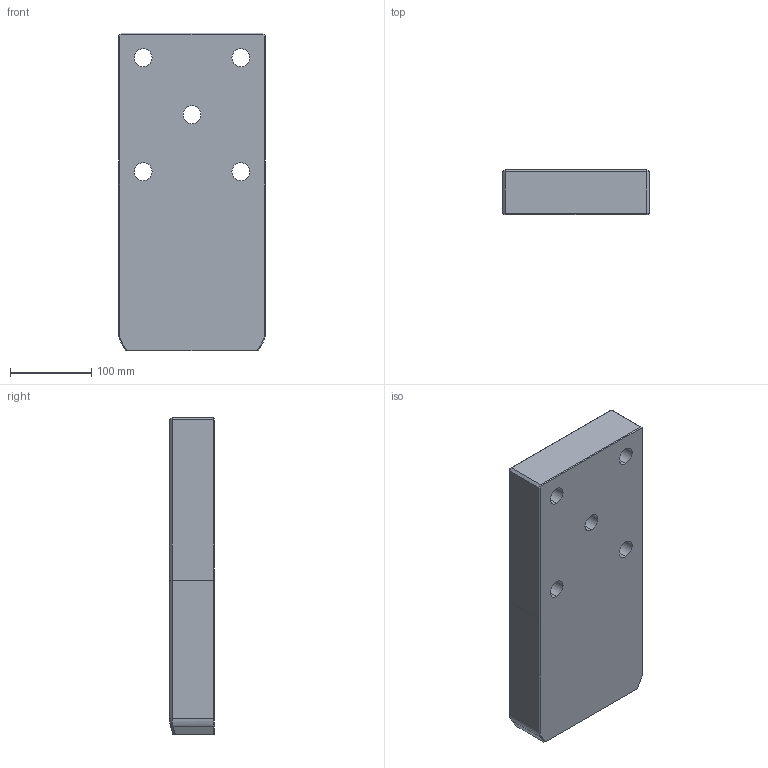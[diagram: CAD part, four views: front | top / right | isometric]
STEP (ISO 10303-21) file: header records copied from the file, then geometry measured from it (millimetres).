
FILE_DESCRIPTION((''),'2;1');
FILE_NAME('','2010-09-08T13:00:41+09:00',('misumi'),(''),'M/STEP i/f 1R2-14','CADmeister v5.1','');
FILE_SCHEMA(('AUTOMOTIVE_DESIGN'));
Length unit declared in the file: millimetre
Products named in the file (1): OGP180-390
Bounding box: 180 x 55 x 390 mm (x, y, z)
Volume: 3735243.6 mm3; surface area: 215332.6 mm2
Topology: 1 solids, 1 shells, 55 faces, 135 edges, 83 vertices
Faces by surface type: plane 32, cylinder 15, bspline 6, cone 2
Entity records: 1986 total; most frequent: CARTESIAN_POINT 611, ORIENTED_EDGE 260, DIRECTION 250, EDGE_CURVE 130, LINE 84, VECTOR 84, AXIS2_PLACEMENT_3D 83, VERTEX_POINT 78
